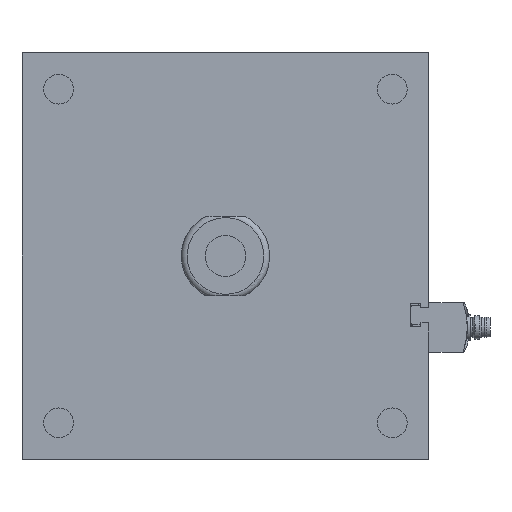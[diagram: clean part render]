
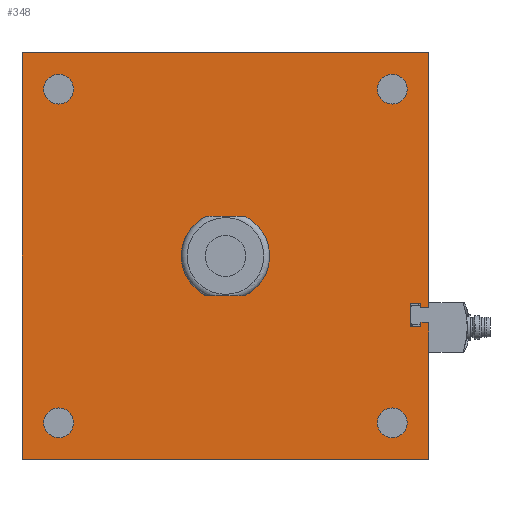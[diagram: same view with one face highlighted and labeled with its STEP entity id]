
A CAD part, front view. The second image highlights one B-rep face of the part: STEP entity #348.
In plain terms, the highlighted planar face has unit normal (0, -1, 0).
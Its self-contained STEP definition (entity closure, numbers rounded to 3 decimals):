
#115=CARTESIAN_POINT('',(69.0,0.0,69.0));
#116=VERTEX_POINT('',#115);
#123=CARTESIAN_POINT('',(69.0,0.0,-16.95));
#124=VERTEX_POINT('',#123);
#125=CARTESIAN_POINT('',(69.0,0.0,69.0));
#126=DIRECTION('',(0.0,0.0,-1.0));
#127=VECTOR('',#126,85.95);
#128=LINE('',#125,#127);
#129=EDGE_CURVE('',#116,#124,#128,.T.);
#140=CARTESIAN_POINT('',(0.,0.0,0.0));
#141=DIRECTION('',(0.0,1.0,0.0));
#142=DIRECTION('',(0.0,0.0,-1.0));
#143=AXIS2_PLACEMENT_3D('',#140,#141,#142);
#144=PLANE('',#143);
#145=CARTESIAN_POINT('',(68.5,0.0,-17.45));
#146=VERTEX_POINT('',#145);
#147=CARTESIAN_POINT('',(69.,0.0,-16.95));
#148=DIRECTION('',(-0.707,0.0,-0.707));
#149=VECTOR('',#148,0.707);
#150=LINE('',#147,#149);
#151=EDGE_CURVE('',#124,#146,#150,.T.);
#152=ORIENTED_EDGE('',*,*,#151,.F.);
#153=ORIENTED_EDGE('',*,*,#129,.F.);
#154=CARTESIAN_POINT('',(-69.,0.0,69.0));
#155=VERTEX_POINT('',#154);
#156=CARTESIAN_POINT('',(-69.,0.0,69.0));
#157=DIRECTION('',(1.0,0.0,0.0));
#158=VECTOR('',#157,138.0);
#159=LINE('',#156,#158);
#160=EDGE_CURVE('',#155,#116,#159,.T.);
#161=ORIENTED_EDGE('',*,*,#160,.F.);
#162=CARTESIAN_POINT('',(-69.,0.0,-69.0));
#163=VERTEX_POINT('',#162);
#164=CARTESIAN_POINT('',(-69.,0.0,-69.0));
#165=DIRECTION('',(0.0,0.0,1.0));
#166=VECTOR('',#165,138.0);
#167=LINE('',#164,#166);
#168=EDGE_CURVE('',#163,#155,#167,.T.);
#169=ORIENTED_EDGE('',*,*,#168,.F.);
#170=CARTESIAN_POINT('',(69.0,0.0,-69.0));
#171=VERTEX_POINT('',#170);
#172=CARTESIAN_POINT('',(69.0,0.0,-69.0));
#173=DIRECTION('',(-1.0,0.0,0.0));
#174=VECTOR('',#173,138.0);
#175=LINE('',#172,#174);
#176=EDGE_CURVE('',#171,#163,#175,.T.);
#177=ORIENTED_EDGE('',*,*,#176,.F.);
#178=CARTESIAN_POINT('',(69.0,0.0,-23.05));
#179=VERTEX_POINT('',#178);
#180=CARTESIAN_POINT('',(69.0,0.0,-23.05));
#181=DIRECTION('',(0.0,0.0,-1.0));
#182=VECTOR('',#181,45.95);
#183=LINE('',#180,#182);
#184=EDGE_CURVE('',#179,#171,#183,.T.);
#185=ORIENTED_EDGE('',*,*,#184,.F.);
#186=CARTESIAN_POINT('',(68.5,0.0,-22.55));
#187=VERTEX_POINT('',#186);
#188=CARTESIAN_POINT('',(68.5,0.0,-22.55));
#189=DIRECTION('',(0.707,0.0,-0.707));
#190=VECTOR('',#189,0.707);
#191=LINE('',#188,#190);
#192=EDGE_CURVE('',#187,#179,#191,.T.);
#193=ORIENTED_EDGE('',*,*,#192,.F.);
#194=CARTESIAN_POINT('',(66.3,0.0,-22.55));
#195=VERTEX_POINT('',#194);
#196=CARTESIAN_POINT('',(68.5,0.0,-22.55));
#197=DIRECTION('',(-1.0,0.0,0.0));
#198=VECTOR('',#197,2.2);
#199=LINE('',#196,#198);
#200=EDGE_CURVE('',#187,#195,#199,.T.);
#201=ORIENTED_EDGE('',*,*,#200,.T.);
#202=CARTESIAN_POINT('',(66.1,0.0,-22.75));
#203=VERTEX_POINT('',#202);
#204=CARTESIAN_POINT('',(66.3,0.0,-22.75));
#205=DIRECTION('',(0.0,1.0,0.0));
#206=DIRECTION('',(-0.707,0.0,0.707));
#207=AXIS2_PLACEMENT_3D('',#204,#205,#206);
#208=CIRCLE('',#207,0.2);
#209=EDGE_CURVE('',#203,#195,#208,.T.);
#210=ORIENTED_EDGE('',*,*,#209,.F.);
#211=CARTESIAN_POINT('',(66.1,0.0,-24.));
#212=VERTEX_POINT('',#211);
#213=CARTESIAN_POINT('',(66.1,0.0,-22.75));
#214=DIRECTION('',(0.0,0.0,-1.0));
#215=VECTOR('',#214,1.25);
#216=LINE('',#213,#215);
#217=EDGE_CURVE('',#203,#212,#216,.T.);
#218=ORIENTED_EDGE('',*,*,#217,.T.);
#219=CARTESIAN_POINT('',(62.8,0.0,-24.));
#220=VERTEX_POINT('',#219);
#221=CARTESIAN_POINT('',(66.1,0.0,-24.));
#222=DIRECTION('',(-1.0,0.0,0.0));
#223=VECTOR('',#222,3.3);
#224=LINE('',#221,#223);
#225=EDGE_CURVE('',#212,#220,#224,.T.);
#226=ORIENTED_EDGE('',*,*,#225,.T.);
#227=CARTESIAN_POINT('',(62.8,0.0,-16.0));
#228=VERTEX_POINT('',#227);
#229=CARTESIAN_POINT('',(62.8,0.0,-24.));
#230=DIRECTION('',(0.0,0.0,1.0));
#231=VECTOR('',#230,8.);
#232=LINE('',#229,#231);
#233=EDGE_CURVE('',#220,#228,#232,.T.);
#234=ORIENTED_EDGE('',*,*,#233,.T.);
#235=CARTESIAN_POINT('',(66.1,0.0,-16.0));
#236=VERTEX_POINT('',#235);
#237=CARTESIAN_POINT('',(62.8,0.0,-16.0));
#238=DIRECTION('',(1.0,0.0,0.0));
#239=VECTOR('',#238,3.3);
#240=LINE('',#237,#239);
#241=EDGE_CURVE('',#228,#236,#240,.T.);
#242=ORIENTED_EDGE('',*,*,#241,.T.);
#243=CARTESIAN_POINT('',(66.1,0.0,-17.25));
#244=VERTEX_POINT('',#243);
#245=CARTESIAN_POINT('',(66.1,0.0,-16.0));
#246=DIRECTION('',(0.0,0.0,-1.0));
#247=VECTOR('',#246,1.25);
#248=LINE('',#245,#247);
#249=EDGE_CURVE('',#236,#244,#248,.T.);
#250=ORIENTED_EDGE('',*,*,#249,.T.);
#251=CARTESIAN_POINT('',(66.3,0.0,-17.45));
#252=VERTEX_POINT('',#251);
#253=CARTESIAN_POINT('',(66.3,0.0,-17.25));
#254=DIRECTION('',(0.0,1.0,0.0));
#255=DIRECTION('',(-0.707,0.0,-0.707));
#256=AXIS2_PLACEMENT_3D('',#253,#254,#255);
#257=CIRCLE('',#256,0.2);
#258=EDGE_CURVE('',#252,#244,#257,.T.);
#259=ORIENTED_EDGE('',*,*,#258,.F.);
#260=CARTESIAN_POINT('',(66.3,0.0,-17.45));
#261=DIRECTION('',(1.0,0.0,0.0));
#262=VECTOR('',#261,2.2);
#263=LINE('',#260,#262);
#264=EDGE_CURVE('',#252,#146,#263,.T.);
#265=ORIENTED_EDGE('',*,*,#264,.T.);
#266=EDGE_LOOP('',(#152,#153,#161,#169,#177,#185,#193,#201,#210,#218,#226,#234,#242,#250,#259,#265));
#267=FACE_OUTER_BOUND('',#266,.T.);
#268=CARTESIAN_POINT('',(56.569,0.0,61.622));
#269=VERTEX_POINT('',#268);
#270=CARTESIAN_POINT('',(56.569,0.0,56.569));
#271=DIRECTION('',(0.0,1.0,0.0));
#272=DIRECTION('',(0.0,0.0,-1.0));
#273=AXIS2_PLACEMENT_3D('',#270,#271,#272);
#274=CIRCLE('',#273,5.053);
#275=EDGE_CURVE('',#269,#269,#274,.T.);
#276=ORIENTED_EDGE('',*,*,#275,.T.);
#277=EDGE_LOOP('',(#276));
#278=FACE_BOUND('',#277,.T.);
#279=CARTESIAN_POINT('',(-56.569,0.0,61.622));
#280=VERTEX_POINT('',#279);
#281=CARTESIAN_POINT('',(-56.569,0.0,56.569));
#282=DIRECTION('',(0.0,1.0,0.0));
#283=DIRECTION('',(0.0,0.0,-1.0));
#284=AXIS2_PLACEMENT_3D('',#281,#282,#283);
#285=CIRCLE('',#284,5.053);
#286=EDGE_CURVE('',#280,#280,#285,.T.);
#287=ORIENTED_EDGE('',*,*,#286,.T.);
#288=EDGE_LOOP('',(#287));
#289=FACE_BOUND('',#288,.T.);
#290=CARTESIAN_POINT('',(-56.569,0.0,-51.516));
#291=VERTEX_POINT('',#290);
#292=CARTESIAN_POINT('',(-56.569,0.0,-56.569));
#293=DIRECTION('',(0.0,1.0,0.0));
#294=DIRECTION('',(0.0,0.0,-1.0));
#295=AXIS2_PLACEMENT_3D('',#292,#293,#294);
#296=CIRCLE('',#295,5.053);
#297=EDGE_CURVE('',#291,#291,#296,.T.);
#298=ORIENTED_EDGE('',*,*,#297,.T.);
#299=EDGE_LOOP('',(#298));
#300=FACE_BOUND('',#299,.T.);
#301=CARTESIAN_POINT('',(56.569,0.0,-51.516));
#302=VERTEX_POINT('',#301);
#303=CARTESIAN_POINT('',(56.569,0.0,-56.569));
#304=DIRECTION('',(0.0,1.0,0.0));
#305=DIRECTION('',(0.0,0.0,-1.0));
#306=AXIS2_PLACEMENT_3D('',#303,#304,#305);
#307=CIRCLE('',#306,5.053);
#308=EDGE_CURVE('',#302,#302,#307,.T.);
#309=ORIENTED_EDGE('',*,*,#308,.T.);
#310=EDGE_LOOP('',(#309));
#311=FACE_BOUND('',#310,.T.);
#312=CARTESIAN_POINT('',(6.538,0.0,13.5));
#313=VERTEX_POINT('',#312);
#314=CARTESIAN_POINT('',(-6.538,0.0,13.5));
#315=VERTEX_POINT('',#314);
#316=CARTESIAN_POINT('',(6.538,0.0,13.5));
#317=DIRECTION('',(-1.0,0.0,0.0));
#318=VECTOR('',#317,13.077);
#319=LINE('',#316,#318);
#320=EDGE_CURVE('',#313,#315,#319,.T.);
#321=ORIENTED_EDGE('',*,*,#320,.F.);
#322=CARTESIAN_POINT('',(6.538,0.0,-13.5));
#323=VERTEX_POINT('',#322);
#324=CARTESIAN_POINT('',(0.,0.0,0.0));
#325=DIRECTION('',(0.0,-1.0,0.0));
#326=DIRECTION('',(0.0,0.0,1.0));
#327=AXIS2_PLACEMENT_3D('',#324,#325,#326);
#328=CIRCLE('',#327,15.0);
#329=EDGE_CURVE('',#323,#313,#328,.T.);
#330=ORIENTED_EDGE('',*,*,#329,.F.);
#331=CARTESIAN_POINT('',(-6.538,0.0,-13.5));
#332=VERTEX_POINT('',#331);
#333=CARTESIAN_POINT('',(-6.538,0.0,-13.5));
#334=DIRECTION('',(1.0,0.0,0.0));
#335=VECTOR('',#334,13.077);
#336=LINE('',#333,#335);
#337=EDGE_CURVE('',#332,#323,#336,.T.);
#338=ORIENTED_EDGE('',*,*,#337,.F.);
#339=CARTESIAN_POINT('',(0.,0.0,0.0));
#340=DIRECTION('',(0.0,-1.0,0.0));
#341=DIRECTION('',(0.0,0.0,1.0));
#342=AXIS2_PLACEMENT_3D('',#339,#340,#341);
#343=CIRCLE('',#342,15.0);
#344=EDGE_CURVE('',#315,#332,#343,.T.);
#345=ORIENTED_EDGE('',*,*,#344,.F.);
#346=EDGE_LOOP('',(#321,#330,#338,#345));
#347=FACE_BOUND('',#346,.T.);
#348=ADVANCED_FACE('',(#267,#278,#289,#300,#311,#347),#144,.F.);
